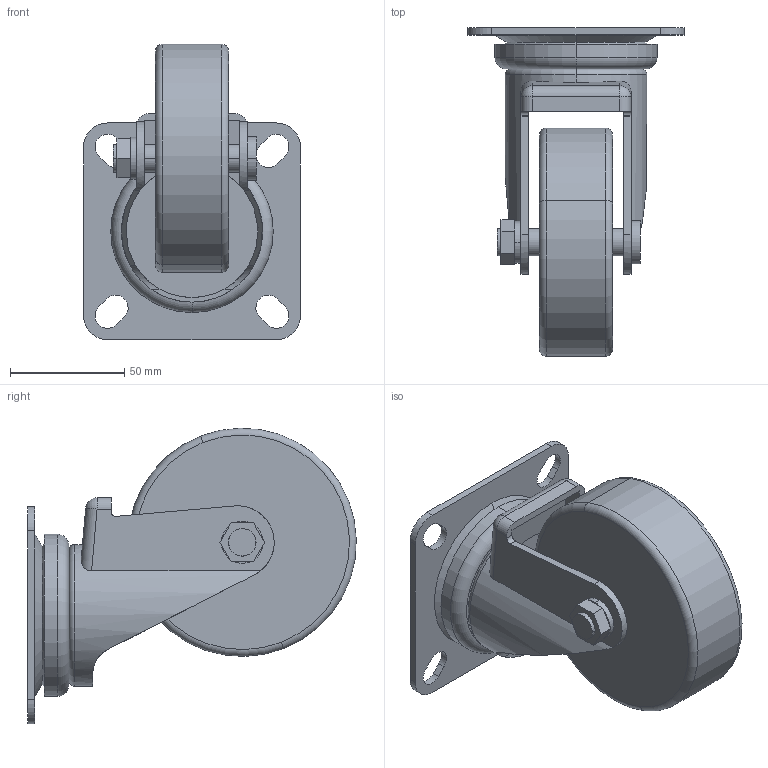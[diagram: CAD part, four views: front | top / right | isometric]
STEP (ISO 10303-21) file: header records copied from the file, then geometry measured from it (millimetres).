
FILE_DESCRIPTION (( 'STEP AP214' ), '1' );
FILE_NAME ('NRJ-100.STEP', '2020-03-23T14:10:55', ( '' ), ( '' ), 'SwSTEP 2.0', 'SolidWorks 2019', '' );
FILE_SCHEMA (( 'AUTOMOTIVE_DESIGN' ));
Length unit declared in the file: millimetre
Products named in the file (7): NRJ-100_partsA; M12_nut; NRJ_100_PartsB; M12_SW; NRJ-100_wheel; NRJ-100; NRJ-100_jiku
Assembly tree (6 placements, depth 2):
  NRJ-100
    NRJ_100_PartsB
    NRJ-100_partsA
    NRJ-100_wheel
    NRJ-100_jiku
    M12_SW
    M12_nut
Bounding box: 95 x 143.99 x 129.49 mm (x, y, z)
Volume: 368524.7 mm3; surface area: 80257.3 mm2
Topology: 6 solids, 6 shells, 114 faces, 281 edges, 182 vertices
Faces by surface type: cylinder 53, plane 47, torus 8, cone 4, sphere 2
Entity records: 3823 total; most frequent: CARTESIAN_POINT 732, DIRECTION 631, ORIENTED_EDGE 562, EDGE_CURVE 281, AXIS2_PLACEMENT_3D 245, VERTEX_POINT 182, VECTOR 141, LINE 141
